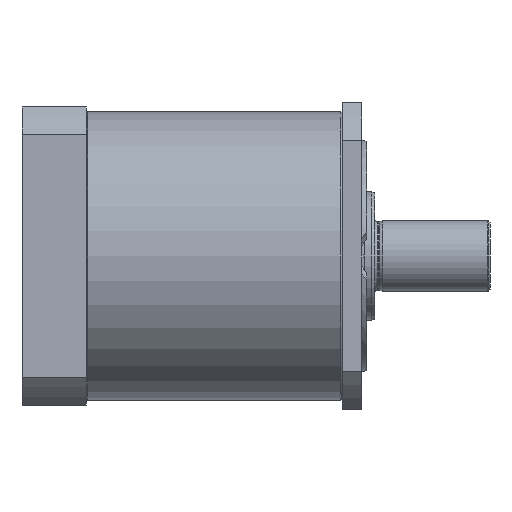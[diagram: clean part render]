
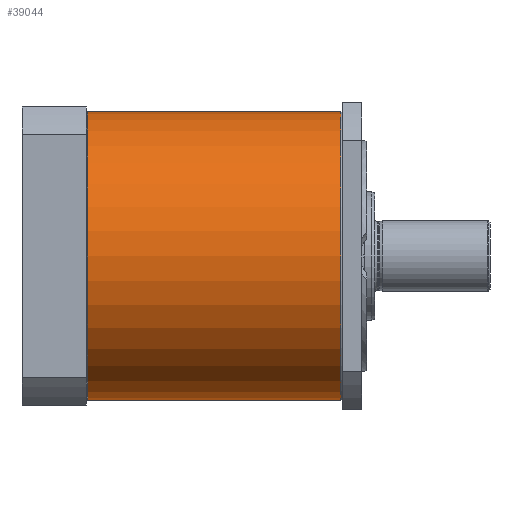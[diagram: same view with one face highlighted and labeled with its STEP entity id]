
A CAD part, front view. The second image highlights one B-rep face of the part: STEP entity #39044.
In plain terms, the highlighted cylindrical face has radius 45 mm (diameter 90 mm), a partial arc.
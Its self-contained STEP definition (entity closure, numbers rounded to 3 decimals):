
#60 = CARTESIAN_POINT ( 'NONE',  ( 52.368, 0., 45. ) ) ;
#552 = ORIENTED_EDGE ( 'NONE', *, *, #12901, .T. ) ;
#1457 = CIRCLE ( 'NONE', #27040, 45. ) ;
#2979 = CARTESIAN_POINT ( 'NONE',  ( 52.368, 0., 0. ) ) ;
#4602 = DIRECTION ( 'NONE',  ( 1., 0., 0. ) ) ;
#6154 = FACE_OUTER_BOUND ( 'NONE', #12469, .T. ) ;
#6677 = DIRECTION ( 'NONE',  ( 1., 0., 0. ) ) ;
#7577 = LINE ( 'NONE', #32090, #19393 ) ;
#7650 = CARTESIAN_POINT ( 'NONE',  ( 0.5, 0., 45. ) ) ;
#9070 = CARTESIAN_POINT ( 'NONE',  ( 79.5, 0., 45. ) ) ;
#9108 = EDGE_CURVE ( 'NONE', #19866, #37020, #1457, .T. ) ;
#10470 = CARTESIAN_POINT ( 'NONE',  ( 79.5, 0., 0. ) ) ;
#11962 = CYLINDRICAL_SURFACE ( 'NONE', #12329, 45. ) ;
#12329 = AXIS2_PLACEMENT_3D ( 'NONE', #2979, #15174, #27419 ) ;
#12469 = EDGE_LOOP ( 'NONE', ( #14072, #22913, #16989, #552 ) ) ;
#12901 = EDGE_CURVE ( 'NONE', #23533, #17022, #14546, .T. ) ;
#14072 = ORIENTED_EDGE ( 'NONE', *, *, #14531, .F. ) ;
#14531 = EDGE_CURVE ( 'NONE', #19866, #17022, #18328, .T. ) ;
#14546 = CIRCLE ( 'NONE', #20973, 45. ) ;
#15174 = DIRECTION ( 'NONE',  ( 1., 0., 0. ) ) ;
#16989 = ORIENTED_EDGE ( 'NONE', *, *, #38801, .T. ) ;
#17022 = VERTEX_POINT ( 'NONE', #9070 ) ;
#18328 = LINE ( 'NONE', #60, #26815 ) ;
#19393 = VECTOR ( 'NONE', #4602, 1000. ) ;
#19521 = DIRECTION ( 'NONE',  ( -1., 0., 0. ) ) ;
#19866 = VERTEX_POINT ( 'NONE', #7650 ) ;
#20973 = AXIS2_PLACEMENT_3D ( 'NONE', #10470, #19521, #25513 ) ;
#22913 = ORIENTED_EDGE ( 'NONE', *, *, #9108, .T. ) ;
#23533 = VERTEX_POINT ( 'NONE', #25179 ) ;
#23778 = DIRECTION ( 'NONE',  ( 0., 0., -1. ) ) ;
#25179 = CARTESIAN_POINT ( 'NONE',  ( 79.5, 0., -45. ) ) ;
#25513 = DIRECTION ( 'NONE',  ( 0., 0., 1. ) ) ;
#26815 = VECTOR ( 'NONE', #6677, 1000. ) ;
#27040 = AXIS2_PLACEMENT_3D ( 'NONE', #30417, #29823, #23778 ) ;
#27419 = DIRECTION ( 'NONE',  ( 0., 0., -1. ) ) ;
#29786 = CARTESIAN_POINT ( 'NONE',  ( 0.5, 0., -45. ) ) ;
#29823 = DIRECTION ( 'NONE',  ( 1., 0., 0. ) ) ;
#30417 = CARTESIAN_POINT ( 'NONE',  ( 0.5, 0., 0. ) ) ;
#32090 = CARTESIAN_POINT ( 'NONE',  ( 52.368, 0., -45. ) ) ;
#37020 = VERTEX_POINT ( 'NONE', #29786 ) ;
#38801 = EDGE_CURVE ( 'NONE', #37020, #23533, #7577, .T. ) ;
#39044 = ADVANCED_FACE ( 'NONE', ( #6154 ), #11962, .T. ) ;
